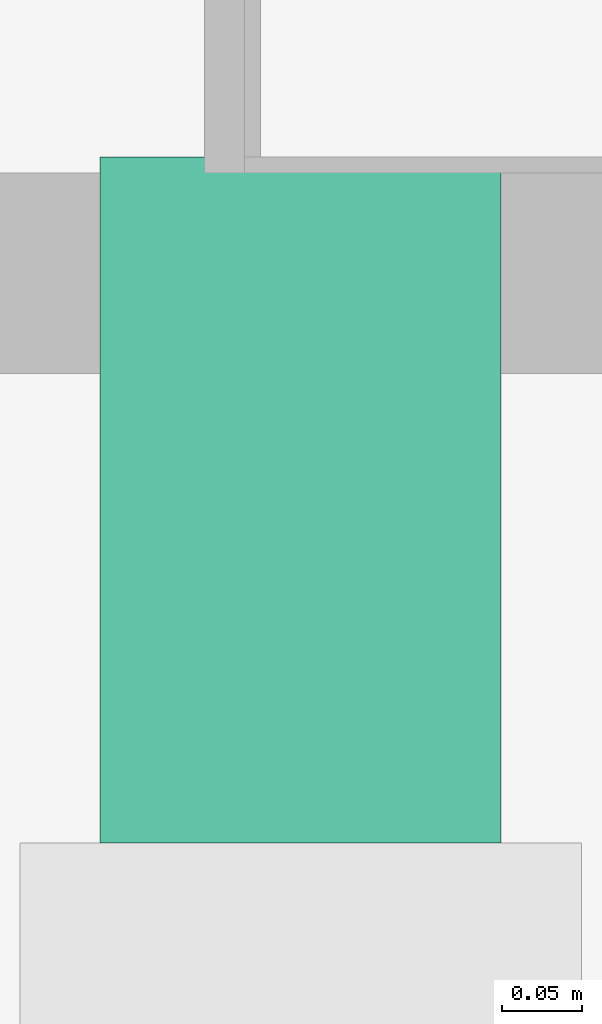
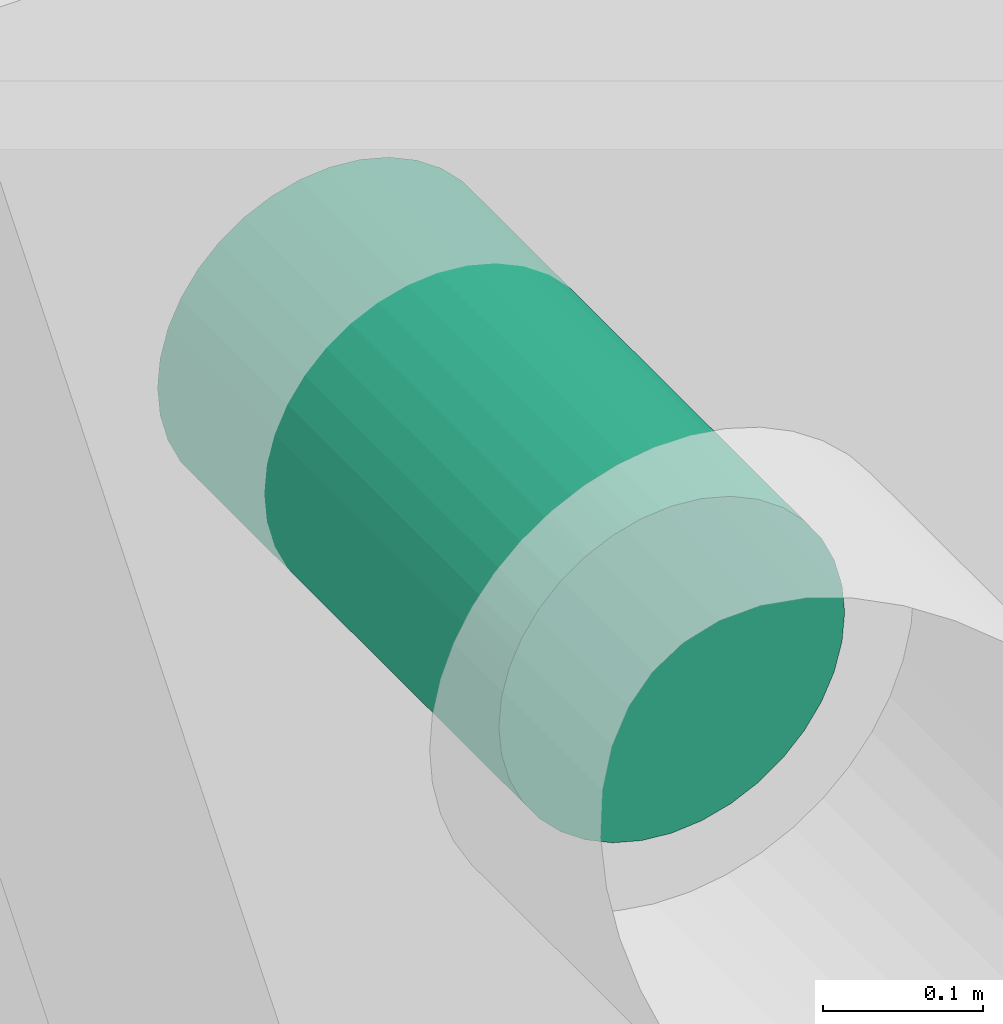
# One storey, part 81 of 128: 1 distribution control element.
"""IFC2X3 building model written with IfcOpenShell, lengths in millimetres."""

from ifc_helpers import new_model, entity, si_unit, converted_unit, derived_unit, direction, frame, frame_2d, origin, place, context, subcontext, project, spatial, circle, extrude, source, transform, mapped, material, type_object, type_shapes, element, save


model = new_model("IFC2X3")

# Units and contexts
model_context = context("Model", 3, precision=0.01, world=origin(), true_north=direction((6.123031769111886e-17, 1.0)))
body_context = subcontext(model_context, "Body", "Model", "MODEL_VIEW")
ifc_project = project(units=[si_unit("LENGTHUNIT", "METRE", prefix="MILLI"), si_unit("AREAUNIT", "SQUARE_METRE"), si_unit("VOLUMEUNIT", "CUBIC_METRE"), converted_unit("PLANEANGLEUNIT", "DEGREE", entity("IfcRatioMeasure", 0.017453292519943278), si_unit("PLANEANGLEUNIT", "RADIAN"), dimensions=[0, 0, 0, 0, 0, 0, 0]), si_unit("MASSUNIT", "GRAM", prefix="KILO"), derived_unit("MASSDENSITYUNIT", [(si_unit("MASSUNIT", "GRAM", prefix="KILO"), 1), (si_unit("LENGTHUNIT", "METRE"), -3)]), derived_unit("IONCONCENTRATIONUNIT", [(si_unit("MASSUNIT", "GRAM", prefix="KILO"), 1), (si_unit("LENGTHUNIT", "METRE"), -3)]), derived_unit("MOMENTOFINERTIAUNIT", [(si_unit("LENGTHUNIT", "METRE"), 4)]), si_unit("TIMEUNIT", "SECOND"), si_unit("FREQUENCYUNIT", "HERTZ"), si_unit("THERMODYNAMICTEMPERATUREUNIT", "DEGREE_CELSIUS"), derived_unit("THERMALTRANSMITTANCEUNIT", [(si_unit("MASSUNIT", "GRAM", prefix="KILO"), 1), (si_unit("THERMODYNAMICTEMPERATUREUNIT", "KELVIN"), -1), (si_unit("TIMEUNIT", "SECOND"), -3)]), derived_unit("THERMALCONDUCTANCEUNIT", [(si_unit("MASSUNIT", "GRAM", prefix="KILO"), 1), (si_unit("THERMODYNAMICTEMPERATUREUNIT", "KELVIN"), -1), (si_unit("TIMEUNIT", "SECOND"), -3), (si_unit("LENGTHUNIT", "METRE"), 1)]), derived_unit("VOLUMETRICFLOWRATEUNIT", [(si_unit("LENGTHUNIT", "METRE"), 3), (si_unit("TIMEUNIT", "SECOND"), -1)]), derived_unit("MASSFLOWRATEUNIT", [(si_unit("MASSUNIT", "GRAM", prefix="KILO"), 1), (si_unit("TIMEUNIT", "SECOND"), -1)]), derived_unit("ROTATIONALFREQUENCYUNIT", [(si_unit("TIMEUNIT", "SECOND"), -1)]), si_unit("ELECTRICCURRENTUNIT", "AMPERE"), si_unit("ELECTRICVOLTAGEUNIT", "VOLT"), si_unit("POWERUNIT", "WATT"), si_unit("FORCEUNIT", "NEWTON", prefix="KILO"), si_unit("ILLUMINANCEUNIT", "LUX"), si_unit("LUMINOUSFLUXUNIT", "LUMEN"), si_unit("LUMINOUSINTENSITYUNIT", "CANDELA"), derived_unit("USERDEFINED", [(si_unit("MASSUNIT", "GRAM", prefix="KILO"), -1), (si_unit("LENGTHUNIT", "METRE"), -2), (si_unit("TIMEUNIT", "SECOND"), 3), (si_unit("LUMINOUSFLUXUNIT", "LUMEN"), 1)]), derived_unit("USERDEFINED", [(si_unit("MASSUNIT", "GRAM", prefix="KILO"), 1), (si_unit("TIMEUNIT", "SECOND"), -3), (si_unit("LENGTHUNIT", "METRE"), 3), (si_unit("ELECTRICCURRENTUNIT", "AMPERE"), -2)]), derived_unit("SOUNDPOWERUNIT", [(si_unit("MASSUNIT", "GRAM", prefix="KILO"), 1), (si_unit("TIMEUNIT", "SECOND"), -3), (si_unit("LENGTHUNIT", "METRE"), 2)]), derived_unit("SOUNDPRESSUREUNIT", [(si_unit("MASSUNIT", "GRAM", prefix="KILO"), 1), (si_unit("LENGTHUNIT", "METRE"), -1), (si_unit("TIMEUNIT", "SECOND"), -2)]), derived_unit("LINEARVELOCITYUNIT", [(si_unit("LENGTHUNIT", "METRE"), 1), (si_unit("TIMEUNIT", "SECOND"), -1)]), si_unit("PRESSUREUNIT", "PASCAL"), derived_unit("USERDEFINED", [(si_unit("MASSUNIT", "GRAM", prefix="KILO"), 1), (si_unit("LENGTHUNIT", "METRE"), -2), (si_unit("TIMEUNIT", "SECOND"), -2)]), derived_unit("LINEARFORCEUNIT", [(si_unit("MASSUNIT", "GRAM", prefix="KILO"), 1), (si_unit("TIMEUNIT", "SECOND"), -2)]), derived_unit("PLANARFORCEUNIT", [(si_unit("MASSUNIT", "GRAM", prefix="KILO"), 1), (si_unit("LENGTHUNIT", "METRE"), -1), (si_unit("TIMEUNIT", "SECOND"), -2)]), derived_unit("SPECIFICHEATCAPACITYUNIT", [(si_unit("THERMODYNAMICTEMPERATUREUNIT", "KELVIN"), -1), (si_unit("LENGTHUNIT", "METRE"), 2), (si_unit("TIMEUNIT", "SECOND"), -2)]), derived_unit("HEATINGVALUEUNIT", [(si_unit("LENGTHUNIT", "METRE"), 2), (si_unit("TIMEUNIT", "SECOND"), -2)]), derived_unit("VAPORPERMEABILITYUNIT", [(si_unit("LENGTHUNIT", "METRE"), -1), (si_unit("TIMEUNIT", "SECOND"), 1)]), derived_unit("DYNAMICVISCOSITYUNIT", [(si_unit("MASSUNIT", "GRAM", prefix="KILO"), 1), (si_unit("TIMEUNIT", "SECOND"), -1), (si_unit("LENGTHUNIT", "METRE"), -1)]), derived_unit("THERMALEXPANSIONCOEFFICIENTUNIT", [(si_unit("THERMODYNAMICTEMPERATUREUNIT", "KELVIN"), -1)]), derived_unit("MODULUSOFELASTICITYUNIT", [(si_unit("MASSUNIT", "GRAM", prefix="KILO"), 1), (si_unit("LENGTHUNIT", "METRE"), -1), (si_unit("TIMEUNIT", "SECOND"), -2)]), derived_unit("ISOTHERMALMOISTURECAPACITYUNIT", [(si_unit("LENGTHUNIT", "METRE"), 3), (si_unit("MASSUNIT", "GRAM", prefix="KILO"), -1)]), derived_unit("MOISTUREDIFFUSIVITYUNIT", [(si_unit("TIMEUNIT", "SECOND"), -1), (si_unit("LENGTHUNIT", "METRE"), 2)])], contexts=[model_context])

# Site, building, storey
site_placement = place(None, frame((0.0, 300.0, 0.0)))
site = spatial("IfcSite", under=ifc_project, at=site_placement, Name="<Kadastrale nummers>", CompositionType="ELEMENT")
building_placement = place(site_placement, origin())
building = spatial("IfcBuilding", under=site, at=building_placement, CompositionType="ELEMENT")
storey_placement = place(building_placement, frame((0.0, 0.0, 3560.0000331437)))
storey = spatial("IfcBuildingStorey", under=building, at=storey_placement, Name="01 eerste verdieping", CompositionType="ELEMENT", Elevation=3560.0000331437)

# Distribution control element
ifc_material = material(Name="<Unnamed>")
controller_type = type_object("IfcControllerType", Name="57_luchtbehandelings buis:Ø 250 op 2946", PredefinedType="NOTDEFINED", material=ifc_material)
shared_shape = source(origin(), body_context, "Body", "SweptSolid", [
    extrude(circle(Radius=125.00000000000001, at=frame_2d((0.0, -5.414335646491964e-13), x_axis=(1.0, 0.0))), frame((0.0, 0.0, 2800.0), z_axis=(1.0, 0.0, 0.0), x_axis=(0.0, -1.0, 0.0)), (0.0, 0.0, 1.0), 427.4999999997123),
])
type_shapes(controller_type, [shared_shape])
distribution_control_element_placement = place(storey_placement, frame((24980.0, 44497.49999999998, 90.00000187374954), z_axis=(0.0, 0.0, 1.0), x_axis=(0.0, 1.0, 0.0)))
element("IfcDistributionControlElement", 1, at=distribution_control_element_placement, inside=storey, type_object=controller_type, material=ifc_material, Name="57_luchtbehandelings buis:Ø 250 op 2946", ObjectType="57_luchtbehandelings buis:Ø 250 op 2946", context=body_context, shape_type="MappedRepresentation", body=[
    mapped(shared_shape, transform((0.0, 0.0, 0.0), scale=1.0)),
])

save(model, "model.ifc")
